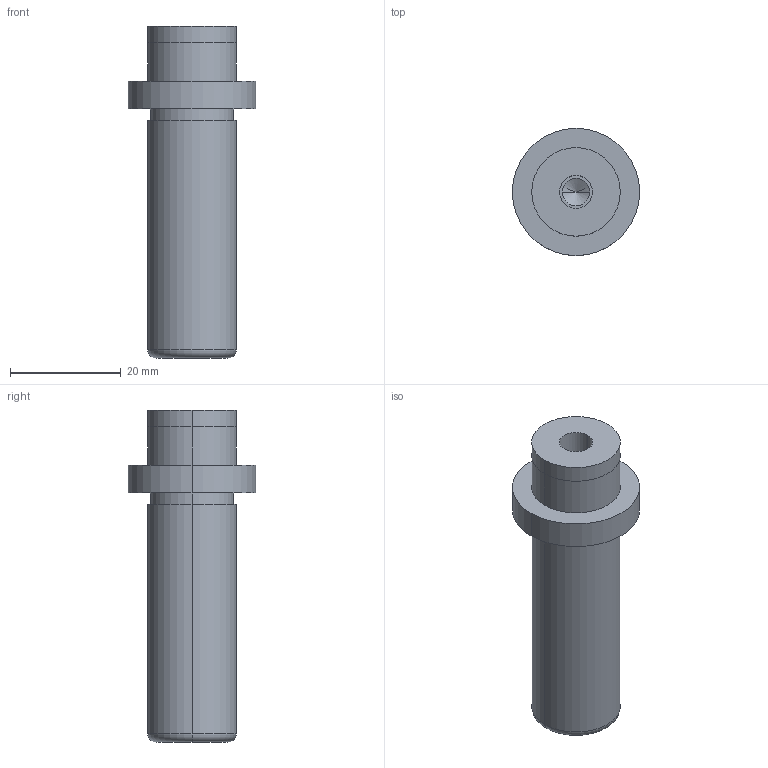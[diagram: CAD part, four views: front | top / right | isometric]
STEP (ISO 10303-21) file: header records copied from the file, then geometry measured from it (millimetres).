
FILE_DESCRIPTION(/* description */ (''),/* implementation_level */ '2;1');
FILE_NAME(/* name */ '3d_sgpr16-50_00290_r00.stp',/* time_stamp */ '2011-01-10T14:11:06+09:00',/* author */ ('MISUMI'),/* organization */ (''),/* preprocessor_version */ 'ST-DEVELOPER v11',/* originating_system */ 'UGS - NX 5.0',/* authorisation */ '');
FILE_SCHEMA (('CONFIG_CONTROL_DESIGN'));
Length unit declared in the file: millimetre
Products named in the file (1): 3d_sgpr16-50_00290_r00
Bounding box: 23 x 23 x 60 mm (x, y, z)
Volume: 12571.4 mm3; surface area: 4298.8 mm2
Topology: 1 solids, 1 shells, 24 faces, 48 edges, 29 vertices
Faces by surface type: cylinder 14, plane 6, cone 2, torus 2
Entity records: 706 total; most frequent: DIRECTION 126, CARTESIAN_POINT 100, ORIENTED_EDGE 92, AXIS2_PLACEMENT_3D 55, EDGE_CURVE 46, CIRCLE 30, EDGE_LOOP 29, VERTEX_POINT 29
